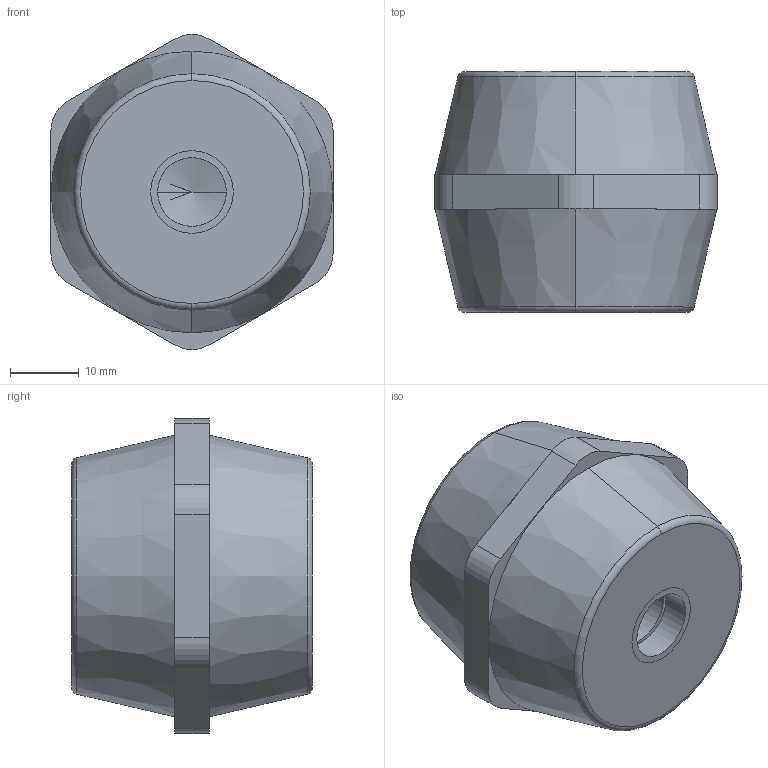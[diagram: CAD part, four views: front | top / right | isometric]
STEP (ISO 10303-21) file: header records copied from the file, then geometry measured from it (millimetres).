
FILE_DESCRIPTION (( 'STEP AP203' ), '1' );
FILE_NAME ('Isolatore 3924 41X35-M10.STEP', '2024-10-28T22:56:14', ( '' ), ( '' ), 'SwSTEP 2.0', 'SolidWorks 2020', '' );
FILE_SCHEMA (( 'CONFIG_CONTROL_DESIGN' ));
Length unit declared in the file: millimetre
Products named in the file (1): Isolatore 3924 41X35-M10
Bounding box: 41 x 35 x 45.8 mm (x, y, z)
Volume: 39062.8 mm3; surface area: 9116.6 mm2
Topology: 3 solids, 3 shells, 87 faces, 191 edges, 116 vertices
Faces by surface type: cylinder 43, plane 24, cone 16, torus 4
Entity records: 2408 total; most frequent: DIRECTION 457, CARTESIAN_POINT 383, ORIENTED_EDGE 358, AXIS2_PLACEMENT_3D 190, EDGE_CURVE 179, VERTEX_POINT 116, EDGE_LOOP 105, CIRCLE 102
